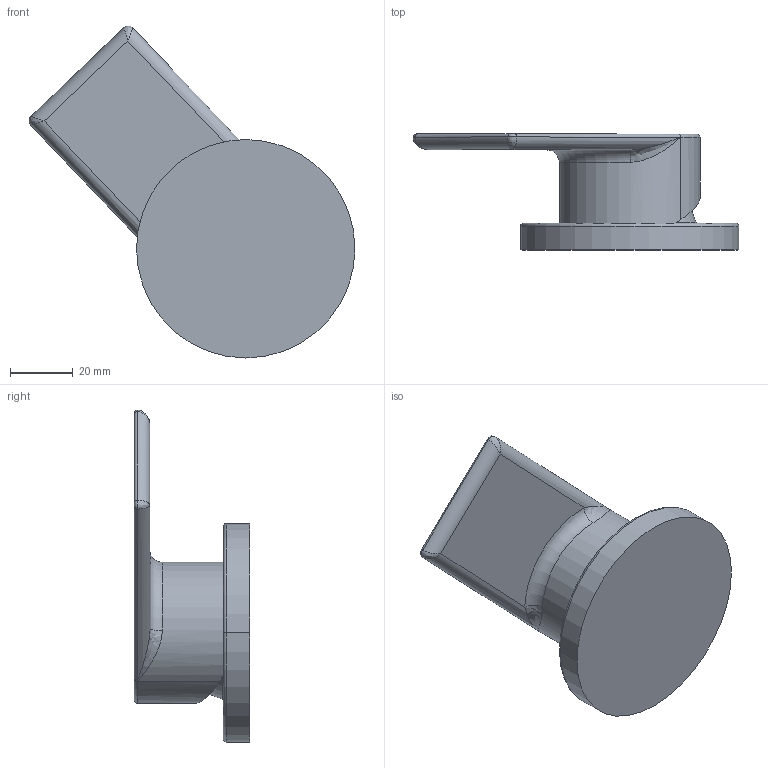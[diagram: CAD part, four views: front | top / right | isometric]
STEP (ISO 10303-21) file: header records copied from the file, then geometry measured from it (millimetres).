
FILE_DESCRIPTION (( 'STEP AP214' ), '1' );
FILE_NAME ('80211410 x architetti.STEP', '2025-03-05T10:54:40', ( '' ), ( '' ), 'SwSTEP 2.0', 'SolidWorks 2020', '' );
FILE_SCHEMA (( 'AUTOMOTIVE_DESIGN' ));
Length unit declared in the file: millimetre
Products named in the file (1): 80211410 x architetti
Bounding box: 104.15 x 37 x 106.08 mm (x, y, z)
Volume: 79125.5 mm3; surface area: 27571.4 mm2
Topology: 1 solids, 2 shells, 58 faces, 131 edges, 76 vertices
Faces by surface type: cylinder 24, plane 10, cone 7, torus 7, bspline 6, sphere 4
Entity records: 2902 total; most frequent: CARTESIAN_POINT 1018, DIRECTION 279, ORIENTED_EDGE 254, EDGE_CURVE 127, AXIS2_PLACEMENT_3D 122, VERTEX_POINT 76, CIRCLE 69, EDGE_LOOP 65
